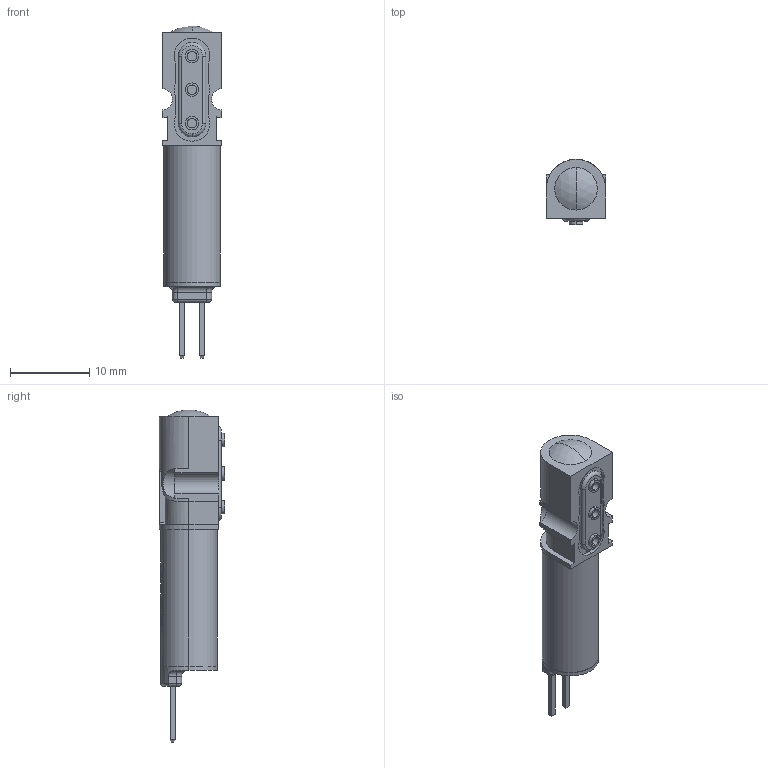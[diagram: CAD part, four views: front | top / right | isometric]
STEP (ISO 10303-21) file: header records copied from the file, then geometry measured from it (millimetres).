
FILE_DESCRIPTION (( 'STEP AP214' ), '1' );
FILE_NAME ('Lee-LHD_Series-3-Port_Face_Mount-CAD_Model A1.step', '2021-03-01T19:43:36', ( '' ), ( '' ), 'SwSTEP 2.0', 'SolidWorks 2019', '' );
FILE_SCHEMA (( 'AUTOMOTIVE_DESIGN' ));
Length unit declared in the file: inch
Products named in the file (1): Lee-LHD_Series-3-Port_Face_Mount-CAD_Model A1
Bounding box: 7.47 x 8.27 x 41.99 mm (x, y, z)
Volume: 1389.4 mm3; surface area: 1145.3 mm2
Topology: 2 solids, 2 shells, 657 faces, 1738 edges, 1150 vertices
Faces by surface type: bspline 298, plane 234, cylinder 112, torus 11, sphere 2
Entity records: 33594 total; most frequent: CARTESIAN_POINT 19045, ORIENTED_EDGE 3476, DIRECTION 1785, EDGE_CURVE 1738, VERTEX_POINT 1150, B_SPLINE_CURVE_WITH_KNOTS 967, EDGE_LOOP 728, FACE_OUTER_BOUND 657
